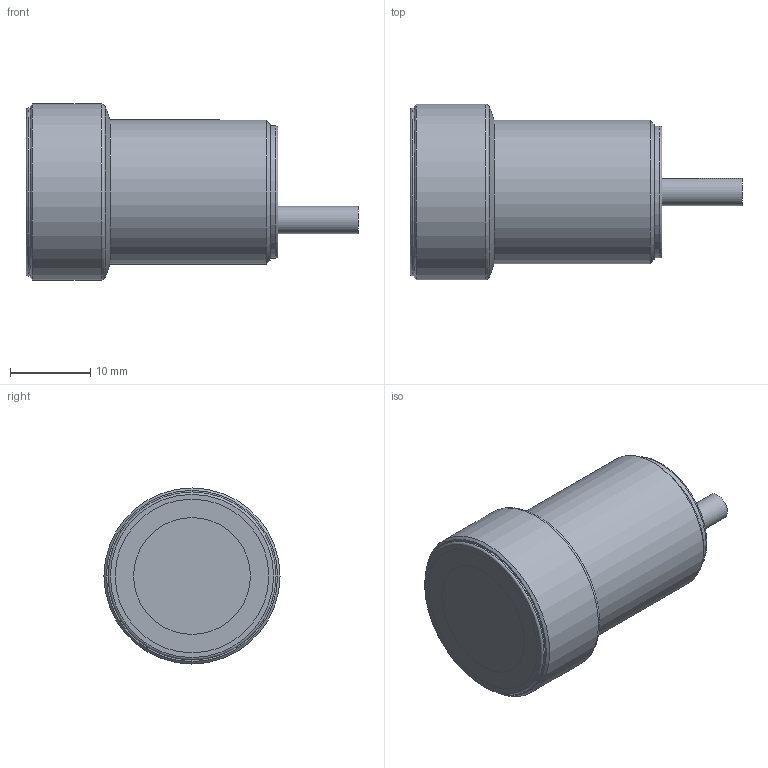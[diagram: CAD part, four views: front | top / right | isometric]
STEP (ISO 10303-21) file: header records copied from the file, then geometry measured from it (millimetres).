
FILE_DESCRIPTION((''),'2;1');
FILE_NAME('J:\Projekte\Kunststoff-Blechteile\Zeichnungen\Bibliothek Inventor\3D Solids\dbk+5\STP\dbk+5_Sender_M18_KX.stp','2010-02-04T17:13:53',('Oliver Liedtke'),(''),'Autodesk Inventor 2009','Autodesk Inventor 2009','');
FILE_SCHEMA(('AUTOMOTIVE_DESIGN { 1 0 10303 214 1 1 1 1 }'));
Length unit declared in the file: millimetre
Products named in the file (1): dbk+5_Sender_M18_KX
Bounding box: 41.5 x 22 x 22 mm (x, y, z)
Volume: 9285.5 mm3; surface area: 2719.3 mm2
Topology: 1 solids, 1 shells, 25 faces, 44 edges, 27 vertices
Faces by surface type: plane 12, cylinder 7, torus 3, cone 3
Full cylindrical faces by diameter (mm): 3.4 x1, 14.6 x1, 16.5 x1, 18 x1, 19.2 x1, 21 x1, 22 x1
Entity records: 621 total; most frequent: DIRECTION 102, CARTESIAN_POINT 84, ORIENTED_EDGE 62, AXIS2_PLACEMENT_3D 45, EDGE_LOOP 44, EDGE_CURVE 31, VERTEX_POINT 27, FACE_OUTER_BOUND 25
